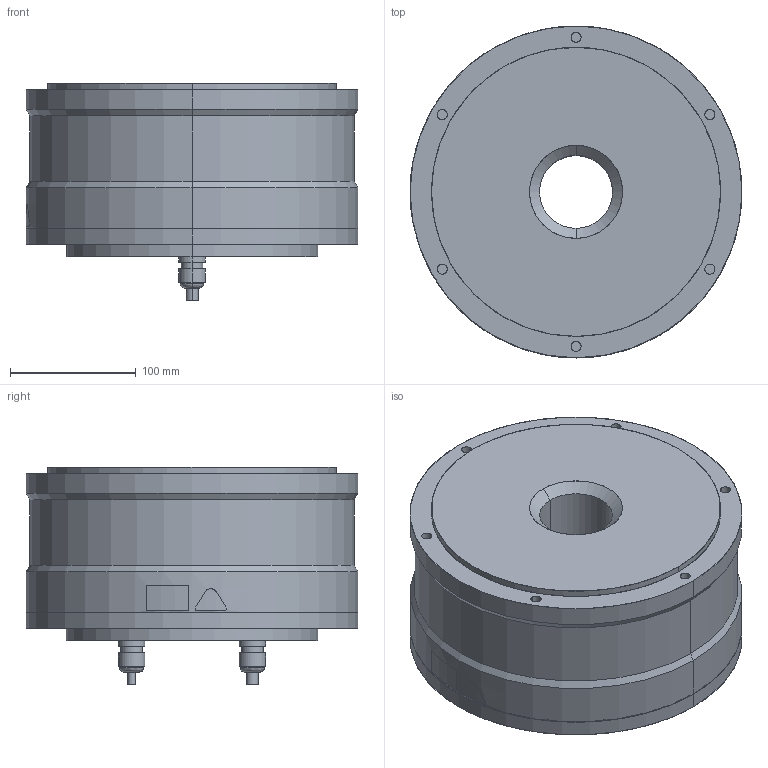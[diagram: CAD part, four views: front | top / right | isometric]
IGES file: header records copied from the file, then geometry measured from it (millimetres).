
Start section: SolidWorks IGES file using analytic representation for surfaces
Bounding box: 264.08 x 264 x 172.8 mm (x, y, z)
Surface area: 255561.5 mm2 (no closed solid volume)
Topology: 0 solids, 0 shells, 224 faces, 5268 edges, 5268 vertices
Faces by surface type: revolution 142, bspline 82
